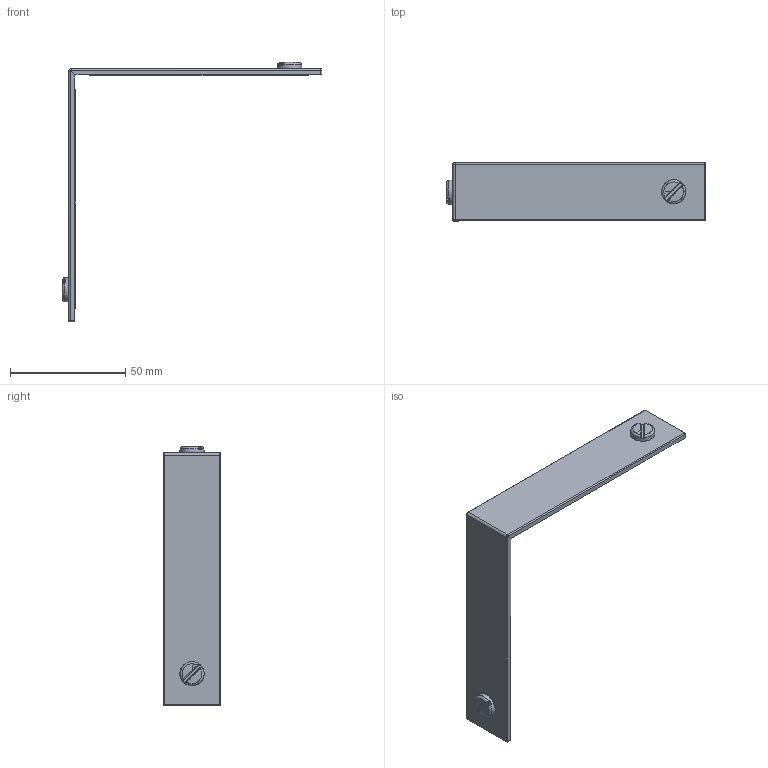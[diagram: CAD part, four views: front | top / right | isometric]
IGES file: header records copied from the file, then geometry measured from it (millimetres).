
Start section: C
Global section: file name: 8293-B1.igs; native system: By Siemens PLM Incorporated; preprocessor: XPlus GENERIC/IGES 16.0.42; author: Author; organization: Title; date: 20210505.095032; units: millimetre
Bounding box: 112.79 x 25 x 112.79 mm (x, y, z)
Surface area: 18084.2 mm2 (no closed solid volume)
Topology: 0 solids, 0 shells, 97 faces, 446 edges, 442 vertices
Faces by surface type: bspline 97
